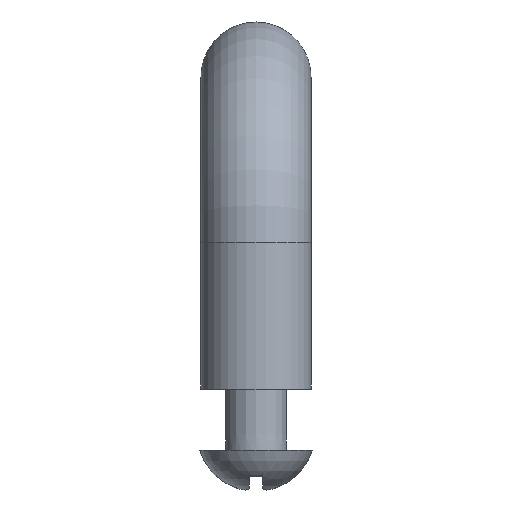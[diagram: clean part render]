
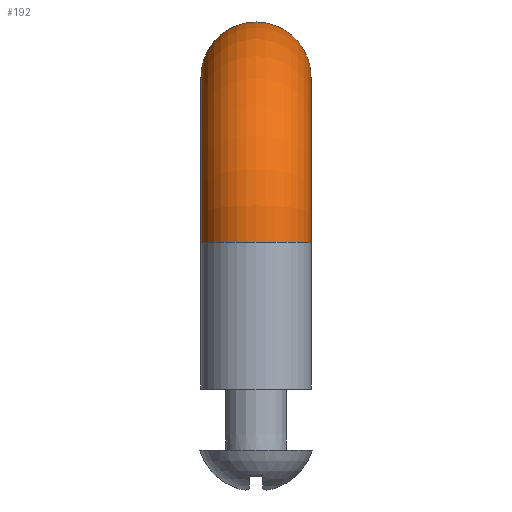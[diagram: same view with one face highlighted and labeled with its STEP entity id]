
A CAD part, front view. The second image highlights one B-rep face of the part: STEP entity #192.
In plain terms, the highlighted toroidal (fillet/blend) face has major radius 13.5 mm and minor radius 4.5 mm.
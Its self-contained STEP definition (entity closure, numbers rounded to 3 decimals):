
#192=ADVANCED_FACE('',(#415,#416),#417,.T.);
#415=FACE_OUTER_BOUND('',#699,.T.);
#416=FACE_OUTER_BOUND('',#700,.T.);
#417=TOROIDAL_SURFACE('',#701,13.5,4.5);
#699=EDGE_LOOP('',(#981));
#700=EDGE_LOOP('',(#982));
#701=AXIS2_PLACEMENT_3D('',#983,#984,#985);
#981=ORIENTED_EDGE('',*,*,#1688,.T.);
#982=ORIENTED_EDGE('',*,*,#1680,.F.);
#983=CARTESIAN_POINT('',(4.5,18.0,12.0));
#984=DIRECTION('',(-1.0,0.0,0.));
#985=DIRECTION('',(0.,0.0,1.0));
#1680=EDGE_CURVE('',#1959,#1959,#1960,.T.);
#1688=EDGE_CURVE('',#1971,#1971,#1972,.T.);
#1959=VERTEX_POINT('',#2364);
#1960=CIRCLE('',#2365,4.5);
#1971=VERTEX_POINT('',#2376);
#1972=CIRCLE('',#2377,4.5);
#2364=CARTESIAN_POINT('',(4.5,18.0,21.0));
#2365=AXIS2_PLACEMENT_3D('',#2977,#2978,#2979);
#2376=CARTESIAN_POINT('',(4.5,9.0,12.0));
#2377=AXIS2_PLACEMENT_3D('',#2989,#2990,#2991);
#2977=CARTESIAN_POINT('',(4.5,18.0,25.5));
#2978=DIRECTION('',(0.,1.0,0.));
#2979=DIRECTION('',(0.,0.,-1.0));
#2989=CARTESIAN_POINT('',(4.5,4.5,12.0));
#2990=DIRECTION('',(0.0,-0.0,1.0));
#2991=DIRECTION('',(0.0,1.0,0.0));
